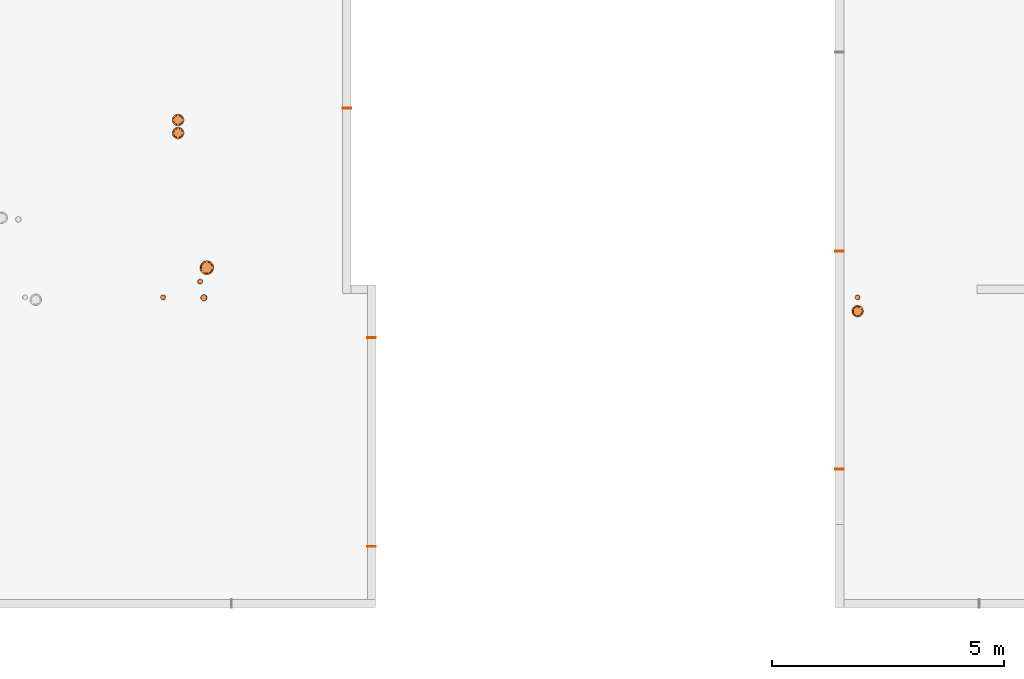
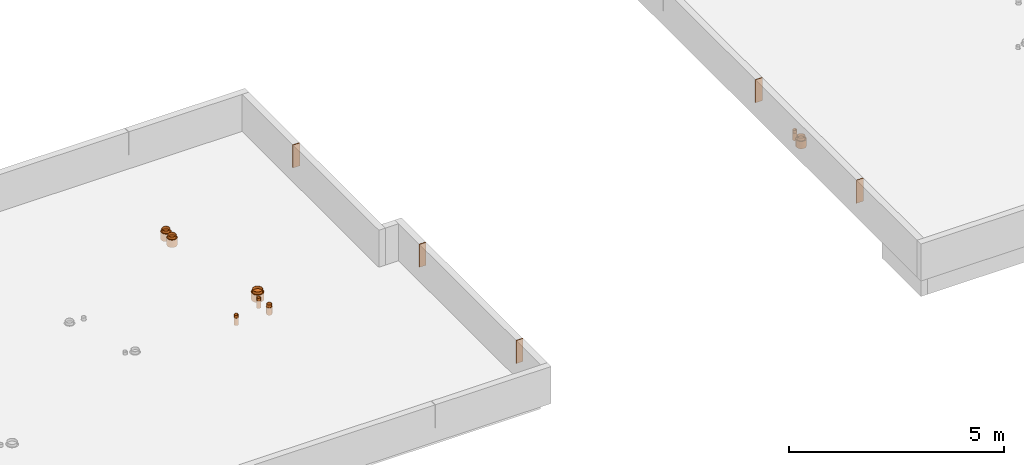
# One storey, part 8 of 12: 13 proxies.
"""IFC2X3 building model written with IfcOpenShell, lengths in centimetres."""

from ifc_helpers import new_model, entity, si_unit, converted_unit, derived_unit, direction, frame, frame_2d, origin, place, context, subcontext, project, spatial, rectangle, circle, hollow_circle, extrude, source, transform, mapped, material, type_object, type_shapes, element, save


model = new_model("IFC2X3")

# Units and contexts
model_context = context("Model", 3, precision=0.001, world=origin(), true_north=direction((6.12303176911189e-17, 1.0)))
body_context = subcontext(model_context, "Body", "Model", "MODEL_VIEW")
ifc_project = project(units=[si_unit("LENGTHUNIT", "METRE", prefix="CENTI"), si_unit("AREAUNIT", "SQUARE_METRE"), si_unit("VOLUMEUNIT", "CUBIC_METRE"), converted_unit("PLANEANGLEUNIT", "DEGREE", entity("IfcRatioMeasure", 0.0174532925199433), si_unit("PLANEANGLEUNIT", "RADIAN"), dimensions=[0, 0, 0, 0, 0, 0, 0]), si_unit("MASSUNIT", "GRAM", prefix="KILO"), derived_unit("MASSDENSITYUNIT", [(si_unit("MASSUNIT", "GRAM", prefix="KILO"), 1), (si_unit("LENGTHUNIT", "METRE"), -3)]), si_unit("TIMEUNIT", "SECOND"), si_unit("FREQUENCYUNIT", "HERTZ"), si_unit("THERMODYNAMICTEMPERATUREUNIT", "DEGREE_CELSIUS"), derived_unit("THERMALTRANSMITTANCEUNIT", [(si_unit("MASSUNIT", "GRAM", prefix="KILO"), 1), (si_unit("THERMODYNAMICTEMPERATUREUNIT", "KELVIN"), -1), (si_unit("TIMEUNIT", "SECOND"), -3)]), derived_unit("VOLUMETRICFLOWRATEUNIT", [(si_unit("LENGTHUNIT", "METRE"), 3), (si_unit("TIMEUNIT", "SECOND"), -1)]), si_unit("ELECTRICCURRENTUNIT", "AMPERE"), si_unit("ELECTRICVOLTAGEUNIT", "VOLT"), si_unit("POWERUNIT", "WATT"), si_unit("FORCEUNIT", "NEWTON"), si_unit("ILLUMINANCEUNIT", "LUX"), si_unit("LUMINOUSFLUXUNIT", "LUMEN"), si_unit("LUMINOUSINTENSITYUNIT", "CANDELA"), derived_unit("USERDEFINED", [(si_unit("MASSUNIT", "GRAM", prefix="KILO"), -1), (si_unit("LENGTHUNIT", "METRE"), -2), (si_unit("TIMEUNIT", "SECOND"), 3), (si_unit("LUMINOUSFLUXUNIT", "LUMEN"), 1)]), derived_unit("LINEARVELOCITYUNIT", [(si_unit("LENGTHUNIT", "METRE"), 1), (si_unit("TIMEUNIT", "SECOND"), -1)]), si_unit("PRESSUREUNIT", "PASCAL"), derived_unit("USERDEFINED", [(si_unit("LENGTHUNIT", "METRE"), -2), (si_unit("MASSUNIT", "GRAM", prefix="KILO"), 1), (si_unit("TIMEUNIT", "SECOND"), -2)])], contexts=[model_context])

# Site, building, storey
site_placement = place(None, origin())
site = spatial("IfcSite", under=ifc_project, at=site_placement, Name="Default", CompositionType="ELEMENT")
building_placement = place(site_placement, origin())
building = spatial("IfcBuilding", under=site, at=building_placement, Name="CAGE 03", CompositionType="ELEMENT")
storey_placement = place(building_placement, frame((0.0, 0.0, 1690.0)))
storey = spatial("IfcBuildingStorey", under=building, at=storey_placement, Name="R+6", CompositionType="ELEMENT", Elevation=1690.0)

# Proxies
ifc_material_1 = material(Name="BBGO_Résa")
building_element_proxy_type_1 = type_object("IfcBuildingElementProxyType", Name="J.F.", PredefinedType="NOTDEFINED", material=ifc_material_1)
shared_shape_1 = source(origin(), body_context, "Body", "SweptSolid", [
    extrude(rectangle(XDim=17.9999999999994, YDim=2.00000000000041, at=frame_2d((0.0, 4.33209024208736e-13), x_axis=(1.0, 0.0))), frame((8230.36582014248, 4874.16066607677, 1730.0)), (0.0, 0.0, 1.0), 64.9999999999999),
])
type_shapes(building_element_proxy_type_1, [shared_shape_1])
proxy_1_placement = place(storey_placement, frame((0.0, 0.0, -1690.0)))
element("IfcBuildingElementProxy", 1, at=proxy_1_placement, inside=storey, type_object=building_element_proxy_type_1, material=ifc_material_1, Name="BBGO-Résa rect et circ:J.F.", ObjectType="J.F.", context=body_context, shape_type="MappedRepresentation", body=[
    mapped(shared_shape_1, transform((0.0, 0.0, 0.0), scale=1.0)),
])
building_element_proxy_type_2 = type_object("IfcBuildingElementProxyType", Name="J.F.", PredefinedType="NOTDEFINED", material=ifc_material_1)
shared_shape_2 = source(origin(), body_context, "Body", "SweptSolid", [
    extrude(rectangle(XDim=17.9999999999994, YDim=2.00000000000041, at=frame_2d((0.0, 4.33209024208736e-13), x_axis=(1.0, 0.0))), frame((8283.36582014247, 4378.66066607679, 1730.0)), (0.0, 0.0, 1.0), 64.9999999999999),
])
type_shapes(building_element_proxy_type_2, [shared_shape_2])
proxy_2_placement = place(storey_placement, frame((0.0, 0.0, -1690.0)))
element("IfcBuildingElementProxy", 2, at=proxy_2_placement, inside=storey, type_object=building_element_proxy_type_2, material=ifc_material_1, Name="BBGO-Résa rect et circ:J.F.", ObjectType="J.F.", context=body_context, shape_type="MappedRepresentation", body=[
    mapped(shared_shape_2, transform((0.0, 0.0, 0.0), scale=1.0)),
])
building_element_proxy_type_3 = type_object("IfcBuildingElementProxyType", Name="J.F.", PredefinedType="NOTDEFINED", material=ifc_material_1)
shared_shape_3 = source(origin(), body_context, "Body", "SweptSolid", [
    extrude(rectangle(XDim=17.9999999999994, YDim=2.00000000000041, at=frame_2d((0.0, 4.33209024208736e-13), x_axis=(1.0, 0.0))), frame((8283.36582014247, 3928.66066607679, 1730.0)), (0.0, 0.0, 1.0), 64.9999999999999),
])
type_shapes(building_element_proxy_type_3, [shared_shape_3])
proxy_3_placement = place(storey_placement, frame((0.0, 0.0, -1690.0)))
element("IfcBuildingElementProxy", 3, at=proxy_3_placement, inside=storey, type_object=building_element_proxy_type_3, material=ifc_material_1, Name="BBGO-Résa rect et circ:J.F.", ObjectType="J.F.", context=body_context, shape_type="MappedRepresentation", body=[
    mapped(shared_shape_3, transform((0.0, 0.0, 0.0), scale=1.0)),
])
building_element_proxy_type_4 = type_object("IfcBuildingElementProxyType", Name="J.F.", PredefinedType="NOTDEFINED", material=ifc_material_1)
shared_shape_4 = source(origin(), body_context, "Body", "SweptSolid", [
    extrude(rectangle(XDim=17.9999999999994, YDim=2.00000000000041, at=frame_2d((0.0, 4.33209024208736e-13), x_axis=(1.0, 0.0))), frame((9293.36582014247, 4565.66066607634, 1730.0)), (0.0, 0.0, 1.0), 64.9999999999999),
])
type_shapes(building_element_proxy_type_4, [shared_shape_4])
proxy_4_placement = place(storey_placement, frame((0.0, 0.0, -1690.0)))
element("IfcBuildingElementProxy", 4, at=proxy_4_placement, inside=storey, type_object=building_element_proxy_type_4, material=ifc_material_1, Name="BBGO-Résa rect et circ:J.F.", ObjectType="J.F.", context=body_context, shape_type="MappedRepresentation", body=[
    mapped(shared_shape_4, transform((0.0, 0.0, 0.0), scale=1.0)),
])
building_element_proxy_type_5 = type_object("IfcBuildingElementProxyType", Name="J.F.", PredefinedType="NOTDEFINED", material=ifc_material_1)
shared_shape_5 = source(origin(), body_context, "Body", "SweptSolid", [
    extrude(rectangle(XDim=17.9999999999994, YDim=2.00000000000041, at=frame_2d((0.0, 4.33209024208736e-13), x_axis=(1.0, 0.0))), frame((9293.36582014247, 4095.66066607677, 1730.0)), (0.0, 0.0, 1.0), 64.9999999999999),
])
type_shapes(building_element_proxy_type_5, [shared_shape_5])
proxy_5_placement = place(storey_placement, frame((0.0, 0.0, -1690.0)))
element("IfcBuildingElementProxy", 5, at=proxy_5_placement, inside=storey, type_object=building_element_proxy_type_5, material=ifc_material_1, Name="BBGO-Résa rect et circ:J.F.", ObjectType="J.F.", context=body_context, shape_type="MappedRepresentation", body=[
    mapped(shared_shape_5, transform((0.0, 0.0, 0.0), scale=1.0)),
])
ifc_material_2 = material(Name="Conduit EU")
building_element_proxy_type_6 = type_object("IfcBuildingElementProxyType", Name="CFO125 P110", PredefinedType="NOTDEFINED", material=ifc_material_2)
shared_shape_6 = source(origin(), body_context, "Body", "SweptSolid", [
    extrude(circle(Radius=5.5, at=frame_2d((0.0, -8.88549515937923e-15), x_axis=(1.0, 0.0))), frame((0.0, 0.0, -21.0)), (0.0, 0.0, 1.0), 21.0),
    extrude(hollow_circle(Radius=5.0, WallThickness=0.25, at=frame_2d((0.0, -8.07772287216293e-15), x_axis=(1.0, 0.0))), frame((0.0, 0.0, -21.0)), (0.0, 0.0, 1.0), 28.5),
])
type_shapes(building_element_proxy_type_6, [shared_shape_6])
for number, where, name in (
    (6, (9332.31391271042, 4466.282688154, 0.0), "Galette - Résa - PVC5:CFO125 P110"),
    (7, (7913.6997706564, 4500.32488712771, 0.0), "Galette - Résa - PVC5:CFO125 P110"),
    (8, (7833.87946784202, 4466.32821753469, 0.0), "Galette - Résa - PVC5:CFO125 P110"),
):
    element("IfcBuildingElementProxy", number, at=place(storey_placement, frame(where)), inside=storey, type_object=building_element_proxy_type_6, material=ifc_material_2, Name=name, ObjectType="CFO125 P110", context=body_context, shape_type="MappedRepresentation", body=[
        mapped(shared_shape_6, transform((0.0, 0.0, 0.0), scale=1.0)),
    ])
ifc_material_3 = material(Name="Conduit VMC")
building_element_proxy_type_7 = type_object("IfcBuildingElementProxyType", Name="CFO235 P210", PredefinedType="NOTDEFINED", material=ifc_material_3)
shared_shape_7 = source(origin(), body_context, "Body", "SweptSolid", [
    extrude(circle(Radius=12.5, at=frame_2d((0.0, -2.01943071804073e-14), x_axis=(1.0, 0.0))), frame((0.0, 0.0, -21.0)), (0.0, 0.0, 1.0), 21.0),
    extrude(hollow_circle(Radius=10.0, WallThickness=0.5, at=frame_2d((0.0, -1.61554457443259e-14), x_axis=(1.0, 0.0))), frame((0.0, 0.0, -21.0)), (0.0, 0.0, 1.0), 28.5),
])
type_shapes(building_element_proxy_type_7, [shared_shape_7])
for number, where, name in (
    (9, (9332.31391271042, 4436.40500268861, 0.0), "Galette - Résa - PVC5:CFO235 P210"),
    (10, (7866.12110627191, 4848.9015173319, 0.0), "Galette - Résa - PVC5:CFO235 P210"),
    (11, (7866.12110627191, 4820.81133445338, 0.0), "Galette - Résa - PVC5:CFO235 P210"),
):
    element("IfcBuildingElementProxy", number, at=place(storey_placement, frame(where)), inside=storey, type_object=building_element_proxy_type_7, material=ifc_material_3, Name=name, ObjectType="CFO235 P210", context=body_context, shape_type="MappedRepresentation", body=[
        mapped(shared_shape_7, transform((0.0, 0.0, 0.0), scale=1.0)),
    ])
building_element_proxy_type_8 = type_object("IfcBuildingElementProxyType", Name="CFO285 P260", PredefinedType="NOTDEFINED", material=ifc_material_3)
shared_shape_8 = source(origin(), body_context, "Body", "SweptSolid", [
    extrude(circle(Radius=15.0, at=frame_2d((0.0, -2.42331686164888e-14), x_axis=(1.0, 0.0))), frame((0.0, 0.0, -21.0)), (0.0, 0.0, 1.0), 21.0),
    extrude(hollow_circle(Radius=12.5, WallThickness=0.499999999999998, at=frame_2d((0.0, -2.01943071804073e-14), x_axis=(1.0, 0.0))), frame((0.0, 0.0, -21.0)), (0.0, 0.0, 1.0), 28.5),
])
type_shapes(building_element_proxy_type_8, [shared_shape_8])
proxy_6_placement = place(storey_placement, frame((7928.16118039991, 4530.34740146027, 0.0)))
element("IfcBuildingElementProxy", 12, at=proxy_6_placement, inside=storey, type_object=building_element_proxy_type_8, material=ifc_material_3, Name="Galette - Résa - PVC5:CFO285 P260", ObjectType="CFO285 P260", context=body_context, shape_type="MappedRepresentation", body=[
    mapped(shared_shape_8, transform((0.0, 0.0, 0.0), scale=1.0)),
])
building_element_proxy_type_9 = type_object("IfcBuildingElementProxyType", Name="CFO140 P135", PredefinedType="NOTDEFINED", material=ifc_material_3)
shared_shape_9 = source(origin(), body_context, "Body", "SweptSolid", [
    extrude(circle(Radius=7.0, at=frame_2d((0.0, -1.13088120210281e-14), x_axis=(1.0, 0.0))), frame((0.0, 0.0, -21.0)), (0.0, 0.0, 1.0), 21.0),
    extrude(hollow_circle(Radius=6.25, WallThickness=0.25, at=frame_2d((0.0, -1.00971535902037e-14), x_axis=(1.0, 0.0))), frame((0.0, 0.0, -21.0)), (0.0, 0.0, 1.0), 28.5),
])
type_shapes(building_element_proxy_type_9, [shared_shape_9])
proxy_7_placement = place(storey_placement, frame((7921.88582014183, 4465.36426071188, 0.0)))
element("IfcBuildingElementProxy", 13, at=proxy_7_placement, inside=storey, type_object=building_element_proxy_type_9, material=ifc_material_3, Name="Galette - Résa - PVC5:CFO140 P135", ObjectType="CFO140 P135", context=body_context, shape_type="MappedRepresentation", body=[
    mapped(shared_shape_9, transform((0.0, 0.0, 0.0), scale=1.0)),
])

save(model, "model.ifc")
